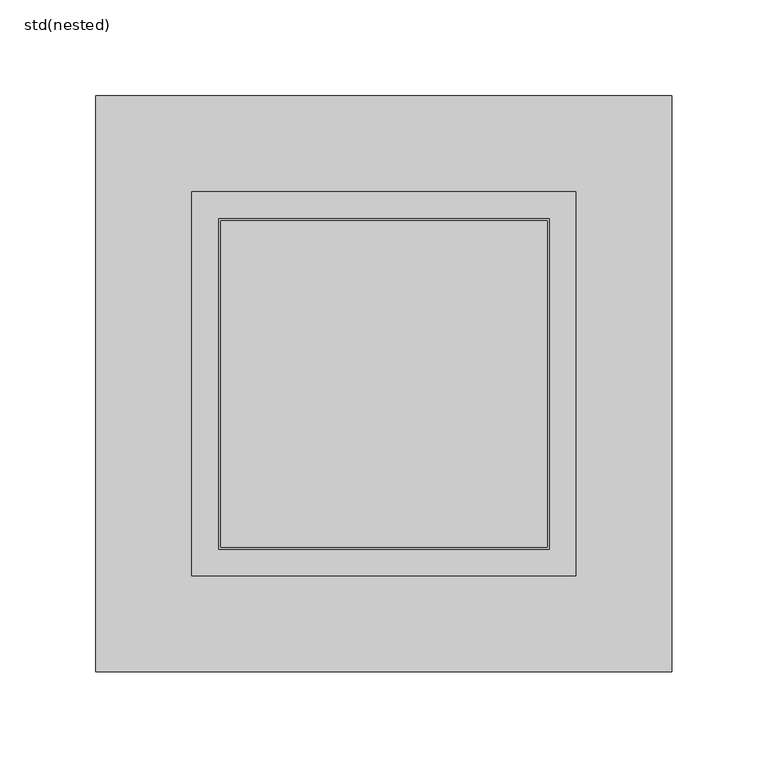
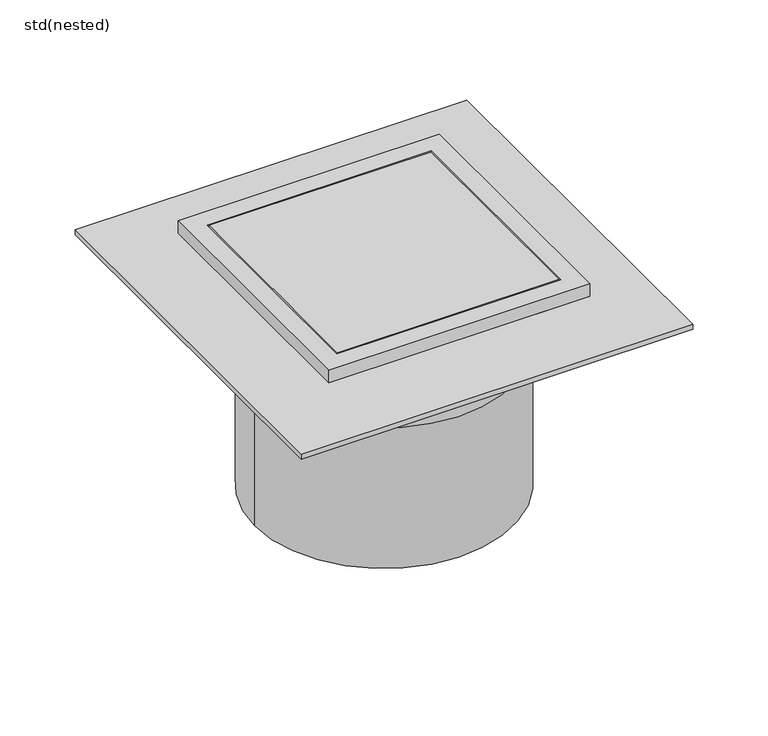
"""IFC4 building model written with IfcOpenShell, lengths in millimetres: sanitary terminal geometry, ZZZ_do not use_PF_ST_WPB_sanded floor grating_CR 218_ACO : std(nested)."""

from ifc_helpers import new_model, si_unit, frame, origin, place, context, project, spatial, polyline, circle_curve, outline, extrude, source, transform, mapped, element, save
from ifc_brep_helpers import plane_surface, cylinder_surface, advanced_brep


def std_nested_1282a145(model_context):
    return source(origin(), model_context, "Body", "SolidModel", [
        extrude(outline(polyline([(150.0, 150.0), (150.0, -150.0), (-150.0, -150.0), (-150.0, 150.0), (150.0, 150.0)])), frame((0.0, 0.0, -24.0), z_axis=(0.0, 0.0, 1.0), x_axis=(1.0, 0.0, 0.0)), (0.0, 0.0, 1.0), 4.0),
        advanced_brep(
        [(-99.0, 0.0, -187.0), (99.0, 0.0, -187.0), (99.0, 0.0, -73.0), (-99.0, 0.0, -73.0), (88.0, -45.3541619, -38.0), (99.0, 0.0, -38.0), (88.0, 45.3541619, -38.0), (-45.3541619, -88.0, -38.0), (45.3541619, -88.0, -38.0), (-99.0, 0.0, -38.0), (-88.0, -45.3541619, -38.0), (-88.0, 45.3541619, -38.0), (45.3541619, 88.0, -38.0), (-45.3541619, 88.0, -38.0), (100.0, 100.0, -10.0), (100.0, 100.0, 0.0), (100.0, -100.0, 0.0), (100.0, -100.0, -10.0), (88.0, 88.0, -38.0), (88.0, 88.0, -10.0), (88.0, -88.0, -10.0), (88.0, -88.0, -38.0), (86.0, 86.0, 0.0), (86.0, 86.0, -36.0), (86.0, -86.0, -36.0), (86.0, -86.0, 0.0), (-100.0, -100.0, 0.0), (-100.0, -100.0, -10.0), (-88.0, -88.0, -10.0), (-88.0, -88.0, -38.0), (-86.0, -86.0, -36.0), (-86.0, -86.0, 0.0), (-100.0, 100.0, 0.0), (-100.0, 100.0, -10.0), (-88.0, 88.0, -10.0), (-88.0, 88.0, -38.0), (-86.0, 86.0, -36.0), (-86.0, 86.0, 0.0), (85.0, -85.0, -36.0), (-85.0, -85.0, -36.0), (-85.0, 85.0, -36.0), (85.0, 85.0, -36.0), (-85.0, -85.0, 0.0), (85.0, -85.0, 0.0), (85.0, 85.0, 0.0), (-85.0, 85.0, 0.0)],
        [
            (0, 1, circle_curve(frame((0.0, 0.0, -187.0), z_axis=(0.0, 0.0, -1.0), x_axis=(1.0, 0.0, 0.0)), 99.0)),
            (1, 0, circle_curve(frame((0.0, 0.0, -187.0), z_axis=(0.0, 0.0, -1.0), x_axis=(1.0, 0.0, 0.0)), 99.0)),
            (1, 2),
            (2, 3, circle_curve(frame((0.0, 0.0, -73.0), z_axis=(0.0, 0.0, -1.0), x_axis=(1.0, 0.0, 0.0)), 99.0)),
            (3, 0),
            (3, 2, circle_curve(frame((0.0, 0.0, -73.0), z_axis=(0.0, 0.0, -1.0), x_axis=(1.0, 0.0, 0.0)), 99.0)),
            (4, 5, circle_curve(frame((0.0, 0.0, -38.0), z_axis=(0.0, 0.0, 1.0), x_axis=(1.0, 0.0, 0.0)), 99.0)),
            (5, 6, circle_curve(frame((0.0, 0.0, -38.0), z_axis=(0.0, 0.0, 1.0), x_axis=(1.0, 0.0, 0.0)), 99.0)),
            (6, 4),
            (7, 8, circle_curve(frame((0.0, 0.0, -38.0), z_axis=(0.0, 0.0, 1.0), x_axis=(1.0, 0.0, 0.0)), 99.0)),
            (8, 7),
            (9, 10, circle_curve(frame((0.0, 0.0, -38.0), z_axis=(0.0, 0.0, 1.0), x_axis=(1.0, 0.0, 0.0)), 99.0)),
            (10, 11),
            (11, 9, circle_curve(frame((0.0, 0.0, -38.0), z_axis=(0.0, 0.0, 1.0), x_axis=(1.0, 0.0, 0.0)), 99.0)),
            (12, 13, circle_curve(frame((0.0, 0.0, -38.0), z_axis=(0.0, 0.0, 1.0), x_axis=(1.0, 0.0, 0.0)), 99.0)),
            (13, 12),
            (9, 3),
            (2, 5),
            (4, 8, circle_curve(frame((0.0, 0.0, -38.0), z_axis=(0.0, 0.0, -1.0), x_axis=(1.0, 0.0, 0.0)), 99.0)),
            (7, 10, circle_curve(frame((0.0, 0.0, -38.0), z_axis=(0.0, 0.0, -1.0), x_axis=(1.0, 0.0, 0.0)), 99.0)),
            (11, 13, circle_curve(frame((0.0, 0.0, -38.0), z_axis=(0.0, 0.0, -1.0), x_axis=(1.0, 0.0, 0.0)), 99.0)),
            (12, 6, circle_curve(frame((0.0, 0.0, -38.0), z_axis=(0.0, 0.0, -1.0), x_axis=(1.0, 0.0, 0.0)), 99.0)),
            (14, 15),
            (15, 16),
            (16, 17),
            (17, 14),
            (18, 19),
            (19, 20),
            (20, 21),
            (21, 4),
            (6, 18),
            (22, 23),
            (23, 24),
            (24, 25),
            (25, 22),
            (16, 26),
            (26, 27),
            (27, 17),
            (20, 28),
            (28, 29),
            (29, 7),
            (8, 21),
            (24, 30),
            (30, 31),
            (31, 25),
            (26, 32),
            (32, 33),
            (33, 27),
            (28, 34),
            (34, 35),
            (35, 11),
            (10, 29),
            (30, 36),
            (36, 37),
            (37, 31),
            (15, 32),
            (37, 22),
            (14, 33),
            (19, 34),
            (18, 12),
            (13, 35),
            (23, 36),
            (38, 39),
            (39, 40),
            (40, 41),
            (41, 38),
            (42, 43),
            (43, 44),
            (44, 45),
            (45, 42),
            (42, 39),
            (38, 43),
            (41, 44),
            (40, 45),
        ],
        [
            plane_surface(frame((99.0, 0.0, -187.0), z_axis=(0.0, 0.0, -1.0), x_axis=(0.0, -1.0, 0.0))),
            cylinder_surface(frame((0.0, 0.0, -187.0), z_axis=(0.0, 0.0, 1.0), x_axis=(1.0, 0.0, 0.0)), 99.0),
            plane_surface(frame((99.0, 0.0, -38.0), z_axis=(0.0, 0.0, 1.0), x_axis=(0.0, 1.0, 0.0))),
            cylinder_surface(frame((0.0, 0.0, -73.0), z_axis=(0.0, 0.0, 1.0), x_axis=(1.0, 0.0, 0.0)), 99.0),
            plane_surface(frame((100.0, 100.0, 0.0), z_axis=(1.0, 0.0, 0.0), x_axis=(0.0, -1.0, 0.0))),
            plane_surface(frame((88.0, 88.0, -10.0), z_axis=(1.0, 0.0, 0.0), x_axis=(0.0, -1.0, 0.0))),
            plane_surface(frame((86.0, 86.0, -36.0), z_axis=(-1.0, 0.0, 0.0), x_axis=(0.0, -1.0, 0.0))),
            plane_surface(frame((100.0, -100.0, 0.0), z_axis=(0.0, -1.0, 0.0), x_axis=(-1.0, 0.0, 0.0))),
            plane_surface(frame((88.0, -88.0, -10.0), z_axis=(0.0, -1.0, 0.0), x_axis=(-1.0, 0.0, 0.0))),
            plane_surface(frame((86.0, -86.0, -36.0), z_axis=(0.0, 1.0, 0.0), x_axis=(-1.0, 0.0, 0.0))),
            plane_surface(frame((-100.0, -100.0, 0.0), z_axis=(-1.0, 0.0, 0.0), x_axis=(0.0, 1.0, 0.0))),
            plane_surface(frame((-88.0, -88.0, -10.0), z_axis=(-1.0, 0.0, 0.0), x_axis=(0.0, 1.0, 0.0))),
            plane_surface(frame((-86.0, -86.0, -36.0), z_axis=(1.0, 0.0, 0.0), x_axis=(0.0, 1.0, 0.0))),
            plane_surface(frame((-86.0, 86.0, 0.0), z_axis=(0.0, 0.0, 1.0), x_axis=(1.0, 0.0, 0.0))),
            plane_surface(frame((-100.0, 100.0, 0.0), z_axis=(0.0, 1.0, 0.0), x_axis=(1.0, 0.0, 0.0))),
            plane_surface(frame((-100.0, 100.0, -10.0), z_axis=(0.0, 0.0, -1.0), x_axis=(1.0, 0.0, 0.0))),
            plane_surface(frame((-88.0, 88.0, -10.0), z_axis=(0.0, 1.0, 0.0), x_axis=(1.0, 0.0, 0.0))),
            plane_surface(frame((-88.0, 88.0, -38.0), z_axis=(0.0, 0.0, -1.0), x_axis=(1.0, 0.0, 0.0))),
            plane_surface(frame((0.0, 0.0, -36.0), z_axis=(0.0, 0.0, 1.0), x_axis=(1.0, 0.0, 0.0))),
            plane_surface(frame((-86.0, 86.0, -36.0), z_axis=(0.0, -1.0, 0.0), x_axis=(1.0, 0.0, 0.0))),
            plane_surface(frame((85.0, -85.0, 0.0), z_axis=(0.0, 0.0, 1.0), x_axis=(1.0, 0.0, 0.0))),
            plane_surface(frame((-85.0, -85.0, 0.0), z_axis=(0.0, -1.0, 0.0), x_axis=(0.0, 0.0, -1.0))),
            plane_surface(frame((85.0, -85.0, 0.0), z_axis=(1.0, 0.0, 0.0), x_axis=(0.0, 0.0, -1.0))),
            plane_surface(frame((85.0, 85.0, 0.0), z_axis=(0.0, 1.0, 0.0), x_axis=(0.0, 0.0, -1.0))),
            plane_surface(frame((-85.0, 85.0, 0.0), z_axis=(-1.0, 0.0, 0.0), x_axis=(0.0, 0.0, -1.0))),
        ],
        [
            (0, [[1, 2]]),
            (1, [[-2, 3, 4, 5]]),
            (1, [[-1, -5, 6, -3]]),
            (2, [[7, 8, 9]]),
            (2, [[10, 11]]),
            (2, [[12, 13, 14]]),
            (2, [[15, 16]]),
            (3, [[17, -4, 18, -7, 19, -10, 20, -12]]),
            (3, [[-17, -14, 21, -15, 22, -8, -18, -6]]),
            (4, [[23, 24, 25, 26]]),
            (5, [[27, 28, 29, 30, -9, 31]]),
            (6, [[32, 33, 34, 35]]),
            (7, [[-25, 36, 37, 38]]),
            (8, [[-29, 39, 40, 41, -11, 42]]),
            (9, [[-34, 43, 44, 45]]),
            (10, [[-37, 46, 47, 48]]),
            (11, [[-40, 49, 50, 51, -13, 52]]),
            (12, [[-44, 53, 54, 55]]),
            (13, [[-24, 56, -46, -36], [-35, -45, -55, 57]]),
            (14, [[-23, 58, -47, -56]]),
            (15, [[-26, -38, -48, -58], [-28, 59, -49, -39]]),
            (16, [[-27, 60, -16, 61, -50, -59]]),
            (17, [[-30, -42, -19]]),
            (17, [[-31, -22, -60]]),
            (17, [[-41, -52, -20]]),
            (17, [[-51, -61, -21]]),
            (18, [[-33, 62, -53, -43], [63, 64, 65, 66]]),
            (19, [[-32, -57, -54, -62]]),
            (20, [[67, 68, 69, 70]]),
            (21, [[-67, 71, -63, 72]]),
            (22, [[-68, -72, -66, 73]]),
            (23, [[-69, -73, -65, 74]]),
            (24, [[-70, -74, -64, -71]]),
        ],
    ),
    ])


if __name__ == "__main__":
    model = new_model("IFC4")
    model_context = context("Model", 3, world=origin())
    ifc_project = project(units=[si_unit("LENGTHUNIT", "METRE", prefix="MILLI")], contexts=[model_context])
    site = spatial("IfcSite", under=ifc_project)
    building = spatial("IfcBuilding", under=site)
    placement = place(None, origin())
    std_nested_shape = std_nested_1282a145(model_context)
    element("IfcSanitaryTerminal", 1, ObjectType="ZZZ_do not use_PF_ST_WPB_sanded floor grating_CR 218_ACO : std(nested)", at=placement, inside=building, context=model_context, shape_type="MappedRepresentation", body=[
        mapped(std_nested_shape, transform((0.0, 0.0, 0.0), x_axis=(1.0, 0.0, 0.0), y_axis=(0.0, 1.0, 0.0), z_axis=(0.0, 0.0, 1.0))),
    ])
    save(model, "model.ifc")
